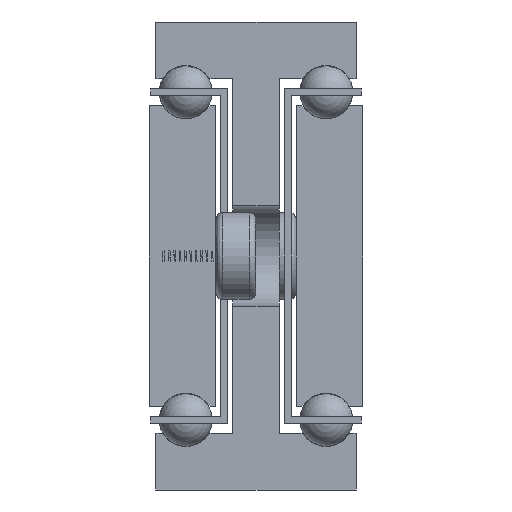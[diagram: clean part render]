
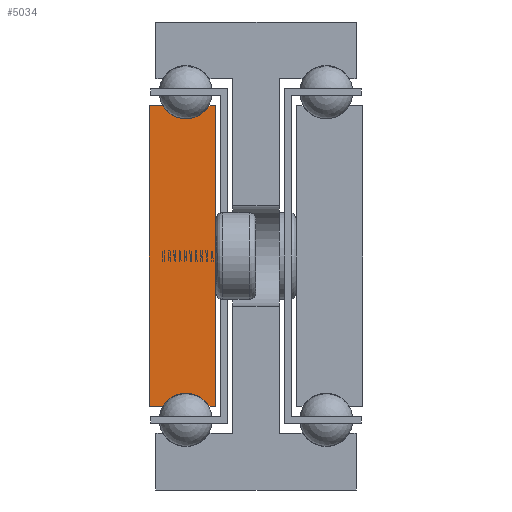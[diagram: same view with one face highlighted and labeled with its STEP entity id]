
A CAD part, front view. The second image highlights one B-rep face of the part: STEP entity #5034.
In plain terms, the highlighted planar face has unit normal (0, -1, 0).
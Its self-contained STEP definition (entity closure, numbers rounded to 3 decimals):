
#748=CIRCLE('',#5374,4.);
#750=CIRCLE('',#5380,4.);
#1088=FACE_OUTER_BOUND('',#1412,.T.);
#1412=EDGE_LOOP('',(#3966,#3967,#3968,#3969,#3970,#3971,#3972,#3973));
#1850=LINE('',#92932,#2062);
#1854=LINE('',#92940,#2066);
#1858=LINE('',#92952,#2070);
#1861=LINE('',#92958,#2073);
#1864=LINE('',#92964,#2076);
#1868=LINE('',#92975,#2080);
#2062=VECTOR('',#5952,1.);
#2066=VECTOR('',#5958,1.);
#2070=VECTOR('',#5970,1.);
#2073=VECTOR('',#5975,1.);
#2076=VECTOR('',#5980,1.);
#2080=VECTOR('',#5992,1.);
#2362=VERTEX_POINT('',#92930);
#2363=VERTEX_POINT('',#92931);
#2366=VERTEX_POINT('',#92939);
#2368=VERTEX_POINT('',#92945);
#2370=VERTEX_POINT('',#92951);
#2372=VERTEX_POINT('',#92957);
#2374=VERTEX_POINT('',#92963);
#2376=VERTEX_POINT('',#92969);
#2992=EDGE_CURVE('',#2362,#2363,#1850,.T.);
#2996=EDGE_CURVE('',#2363,#2366,#1854,.T.);
#2999=EDGE_CURVE('',#2366,#2368,#748,.T.);
#3002=EDGE_CURVE('',#2368,#2370,#1858,.T.);
#3005=EDGE_CURVE('',#2370,#2372,#1861,.T.);
#3008=EDGE_CURVE('',#2372,#2374,#1864,.T.);
#3011=EDGE_CURVE('',#2374,#2376,#750,.T.);
#3014=EDGE_CURVE('',#2376,#2362,#1868,.T.);
#3966=ORIENTED_EDGE('',*,*,#3014,.T.);
#3967=ORIENTED_EDGE('',*,*,#2992,.T.);
#3968=ORIENTED_EDGE('',*,*,#2996,.T.);
#3969=ORIENTED_EDGE('',*,*,#2999,.T.);
#3970=ORIENTED_EDGE('',*,*,#3002,.T.);
#3971=ORIENTED_EDGE('',*,*,#3005,.T.);
#3972=ORIENTED_EDGE('',*,*,#3008,.T.);
#3973=ORIENTED_EDGE('',*,*,#3011,.T.);
#4888=PLANE('',#5383);
#5034=ADVANCED_FACE('',(#1088),#4888,.F.);
#5374=AXIS2_PLACEMENT_3D('',#92946,#5963,#5964);
#5380=AXIS2_PLACEMENT_3D('',#92970,#5985,#5986);
#5383=AXIS2_PLACEMENT_3D('',#92977,#5994,#5995);
#5952=DIRECTION('',(0.,0.,-1.));
#5958=DIRECTION('',(1.,0.,0.));
#5963=DIRECTION('center_axis',(0.,1.,0.));
#5964=DIRECTION('ref_axis',(-0.866,0.,0.5));
#5970=DIRECTION('',(1.,0.,0.));
#5975=DIRECTION('',(0.,0.,1.));
#5980=DIRECTION('',(-1.,0.,0.));
#5985=DIRECTION('center_axis',(0.,1.,0.));
#5986=DIRECTION('ref_axis',(0.866,0.,-0.5));
#5992=DIRECTION('',(-1.,0.,0.));
#5994=DIRECTION('center_axis',(0.,1.,0.));
#5995=DIRECTION('ref_axis',(1.,0.,0.));
#92930=CARTESIAN_POINT('',(-950.732,-287.353,-12.5));
#92931=CARTESIAN_POINT('',(-950.732,-287.353,-57.5));
#92932=CARTESIAN_POINT('',(-950.732,-287.353,-12.5));
#92939=CARTESIAN_POINT('',(-948.696,-287.353,-57.5));
#92940=CARTESIAN_POINT('',(-950.732,-287.353,-57.5));
#92945=CARTESIAN_POINT('',(-941.768,-287.353,-57.5));
#92946=CARTESIAN_POINT('Origin',(-945.232,-287.353,-59.5));
#92951=CARTESIAN_POINT('',(-940.732,-287.353,-57.5));
#92952=CARTESIAN_POINT('',(-941.768,-287.353,-57.5));
#92957=CARTESIAN_POINT('',(-940.732,-287.353,-12.5));
#92958=CARTESIAN_POINT('',(-940.732,-287.353,-57.5));
#92963=CARTESIAN_POINT('',(-941.768,-287.353,-12.5));
#92964=CARTESIAN_POINT('',(-940.732,-287.353,-12.5));
#92969=CARTESIAN_POINT('',(-948.696,-287.353,-12.5));
#92970=CARTESIAN_POINT('Origin',(-945.232,-287.353,-10.5));
#92975=CARTESIAN_POINT('',(-948.696,-287.353,-12.5));
#92977=CARTESIAN_POINT('Origin',(-945.738,-287.353,-35.));
